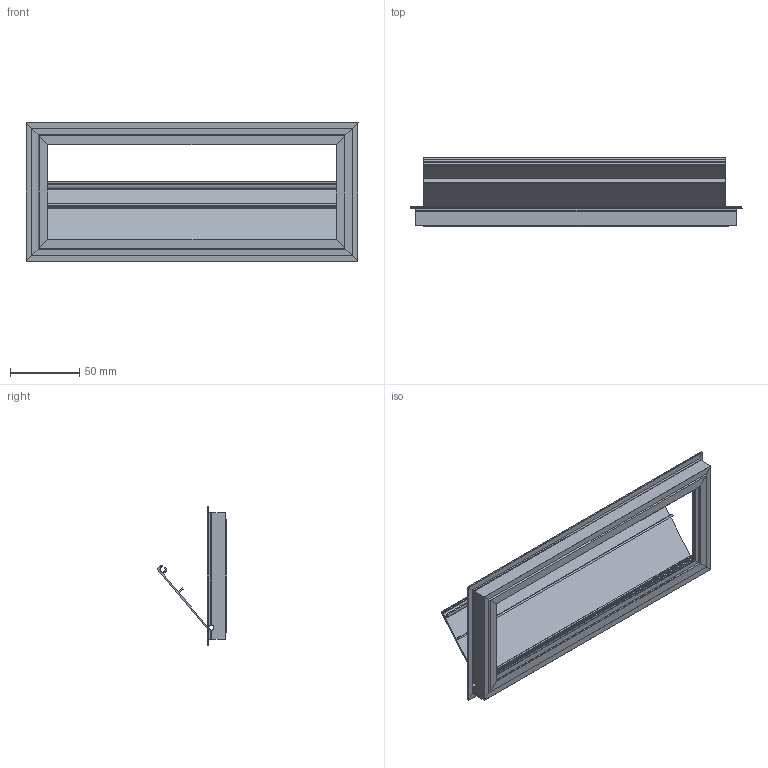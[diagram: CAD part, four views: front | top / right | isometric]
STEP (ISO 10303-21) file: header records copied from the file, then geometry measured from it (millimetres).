
FILE_DESCRIPTION((''),'2;1');
FILE_NAME('2113206S_ASM','2015-07-29T',('Administrator'),(''),'PRO/ENGINEER BY PARAMETRIC TECHNOLOGY CORPORATION, 2012130','PRO/ENGINEER BY PARAMETRIC TECHNOLOGY CORPORATION, 2012130','');
FILE_SCHEMA(('CONFIG_CONTROL_DESIGN'));
Length unit declared in the file: millimetre
Products named in the file (5): 13MM100L; 13MM240; 13MM100R; 60_5X240TOP; 2113206S_ASM
Assembly tree (5 placements, depth 2):
  2113206S_ASM
    13MM100L
    13MM240  x2
    13MM100R
    60_5X240TOP
Bounding box: 240 x 50.32 x 100 mm (x, y, z)
Volume: 66653.3 mm3; surface area: 91312.6 mm2
Topology: 5 solids, 5 shells, 255 faces, 737 edges, 490 vertices
Faces by surface type: plane 158, cylinder 97
Entity records: 6888 total; most frequent: CARTESIAN_POINT 1676, ORIENTED_EDGE 1162, DIRECTION 905, EDGE_CURVE 581, VECTOR 415, LINE 415, VERTEX_POINT 386, AXIS2_PLACEMENT_3D 245
